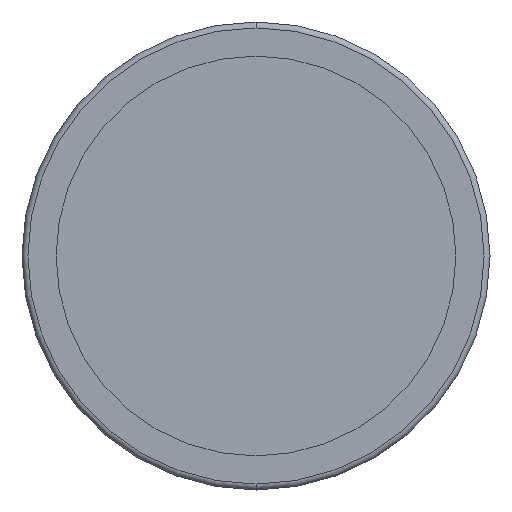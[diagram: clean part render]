
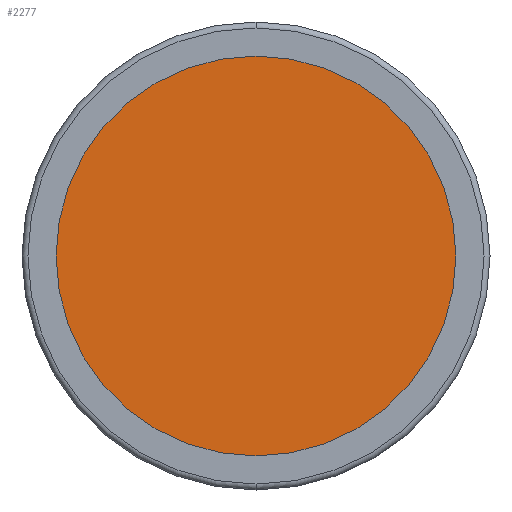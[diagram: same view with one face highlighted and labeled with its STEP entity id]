
A CAD part, front view. The second image highlights one B-rep face of the part: STEP entity #2277.
In plain terms, the highlighted planar face has unit normal (0, -1, 0).
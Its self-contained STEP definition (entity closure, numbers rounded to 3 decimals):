
#109 = ORIENTED_EDGE ( 'NONE', *, *, #2176, .F. ) ;
#211 = EDGE_LOOP ( 'NONE', ( #109, #1149 ) ) ;
#236 = AXIS2_PLACEMENT_3D ( 'NONE', #1698, #2065, #716 ) ;
#301 = DIRECTION ( 'NONE',  ( 0., 1., 0. ) ) ;
#496 = DIRECTION ( 'NONE',  ( 0., 1., 0. ) ) ;
#716 = DIRECTION ( 'NONE',  ( 0., 0., -1. ) ) ;
#734 = CARTESIAN_POINT ( 'NONE',  ( 0., -2., 0. ) ) ;
#858 = VERTEX_POINT ( 'NONE', #2210 ) ;
#868 = AXIS2_PLACEMENT_3D ( 'NONE', #1841, #496, #1654 ) ;
#927 = FACE_OUTER_BOUND ( 'NONE', #211, .T. ) ;
#1042 = AXIS2_PLACEMENT_3D ( 'NONE', #734, #301, #2031 ) ;
#1083 = EDGE_CURVE ( 'NONE', #2341, #858, #2039, .T. ) ;
#1149 = ORIENTED_EDGE ( 'NONE', *, *, #1083, .F. ) ;
#1303 = PLANE ( 'NONE',  #236 ) ;
#1370 = CARTESIAN_POINT ( 'NONE',  ( 0., -2., -33.75 ) ) ;
#1654 = DIRECTION ( 'NONE',  ( 0., 0., 1. ) ) ;
#1698 = CARTESIAN_POINT ( 'NONE',  ( -33.75, -2., 0. ) ) ;
#1841 = CARTESIAN_POINT ( 'NONE',  ( 0., -2., 0. ) ) ;
#2031 = DIRECTION ( 'NONE',  ( 0., 0., 1. ) ) ;
#2039 = CIRCLE ( 'NONE', #868, 33.75 ) ;
#2065 = DIRECTION ( 'NONE',  ( 0., -1., 0. ) ) ;
#2099 = CIRCLE ( 'NONE', #1042, 33.75 ) ;
#2176 = EDGE_CURVE ( 'NONE', #858, #2341, #2099, .T. ) ;
#2210 = CARTESIAN_POINT ( 'NONE',  ( 0., -2., 33.75 ) ) ;
#2277 = ADVANCED_FACE ( 'NONE', ( #927 ), #1303, .T. ) ;
#2341 = VERTEX_POINT ( 'NONE', #1370 ) ;
